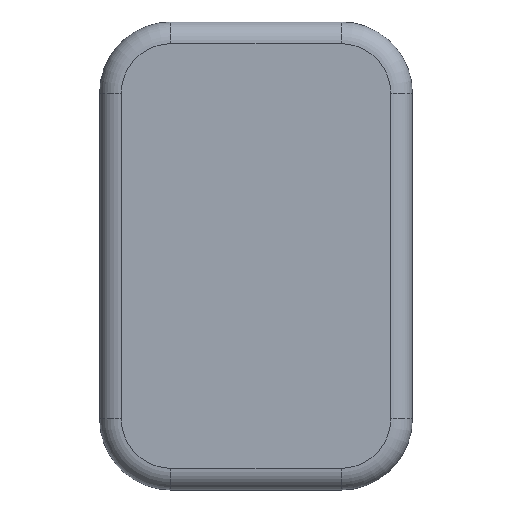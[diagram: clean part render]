
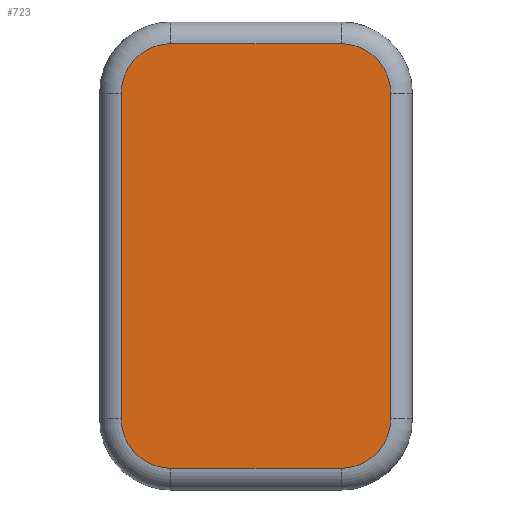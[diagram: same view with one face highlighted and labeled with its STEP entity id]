
A CAD part, front view. The second image highlights one B-rep face of the part: STEP entity #723.
In plain terms, the highlighted planar face has unit normal (0, -1, 0).
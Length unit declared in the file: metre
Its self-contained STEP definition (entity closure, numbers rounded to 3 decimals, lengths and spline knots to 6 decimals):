
#60=CIRCLE('',#796,0.003576);
#61=CIRCLE('',#797,0.003576);
#62=CIRCLE('',#798,0.003576);
#63=CIRCLE('',#799,0.003576);
#152=ORIENTED_EDGE('',*,*,#364,.T.);
#153=ORIENTED_EDGE('',*,*,#365,.T.);
#154=ORIENTED_EDGE('',*,*,#366,.T.);
#155=ORIENTED_EDGE('',*,*,#367,.T.);
#156=ORIENTED_EDGE('',*,*,#368,.T.);
#157=ORIENTED_EDGE('',*,*,#369,.T.);
#158=ORIENTED_EDGE('',*,*,#370,.T.);
#159=ORIENTED_EDGE('',*,*,#371,.T.);
#364=EDGE_CURVE('',#464,#465,#524,.F.);
#365=EDGE_CURVE('',#465,#466,#60,.T.);
#366=EDGE_CURVE('',#466,#467,#525,.T.);
#367=EDGE_CURVE('',#467,#468,#61,.T.);
#368=EDGE_CURVE('',#468,#469,#526,.T.);
#369=EDGE_CURVE('',#469,#470,#62,.T.);
#370=EDGE_CURVE('',#470,#471,#527,.F.);
#371=EDGE_CURVE('',#471,#464,#63,.T.);
#464=VERTEX_POINT('',#1209);
#465=VERTEX_POINT('',#1210);
#466=VERTEX_POINT('',#1212);
#467=VERTEX_POINT('',#1214);
#468=VERTEX_POINT('',#1216);
#469=VERTEX_POINT('',#1218);
#470=VERTEX_POINT('',#1220);
#471=VERTEX_POINT('',#1222);
#524=LINE('',#1208,#584);
#525=LINE('',#1213,#585);
#526=LINE('',#1217,#586);
#527=LINE('',#1221,#587);
#584=VECTOR('',#946,1.);
#585=VECTOR('',#949,1.);
#586=VECTOR('',#952,1.);
#587=VECTOR('',#955,1.);
#624=EDGE_LOOP('',(#152,#153,#154,#155,#156,#157,#158,#159));
#664=FACE_BOUND('',#624,.T.);
#700=PLANE('',#795);
#723=ADVANCED_FACE('',(#664),#700,.T.);
#795=AXIS2_PLACEMENT_3D('',#1207,#944,#945);
#796=AXIS2_PLACEMENT_3D('',#1211,#947,#948);
#797=AXIS2_PLACEMENT_3D('',#1215,#950,#951);
#798=AXIS2_PLACEMENT_3D('',#1219,#953,#954);
#799=AXIS2_PLACEMENT_3D('',#1223,#956,#957);
#944=DIRECTION('',(0.,-1.,0.));
#945=DIRECTION('',(1.,0.,0.));
#946=DIRECTION('',(1.,0.,0.));
#947=DIRECTION('',(0.,-1.,0.));
#948=DIRECTION('',(-1.,0.,0.));
#949=DIRECTION('',(0.,0.,-1.));
#950=DIRECTION('',(0.,-1.,0.));
#951=DIRECTION('',(-1.,0.,0.));
#952=DIRECTION('',(1.,0.,0.));
#953=DIRECTION('',(0.,-1.,0.));
#954=DIRECTION('',(-1.,0.,0.));
#955=DIRECTION('',(0.,0.,-1.));
#956=DIRECTION('',(0.,-1.,0.));
#957=DIRECTION('',(-1.,0.,0.));
#1207=CARTESIAN_POINT('',(0.126102,-0.001,0.07843));
#1208=CARTESIAN_POINT('',(0.126102,-0.001,0.093769));
#1209=CARTESIAN_POINT('',(0.134358,-0.001,0.093769));
#1210=CARTESIAN_POINT('',(0.122047,-0.001,0.093769));
#1211=CARTESIAN_POINT('',(0.122047,-0.001,0.090193));
#1212=CARTESIAN_POINT('',(0.11847,-0.001,0.090193));
#1213=CARTESIAN_POINT('',(0.11847,-0.001,0.066666));
#1214=CARTESIAN_POINT('',(0.11847,-0.001,0.066666));
#1215=CARTESIAN_POINT('',(0.122047,-0.001,0.066666));
#1216=CARTESIAN_POINT('',(0.122047,-0.001,0.06309));
#1217=CARTESIAN_POINT('',(0.134358,-0.001,0.06309));
#1218=CARTESIAN_POINT('',(0.134358,-0.001,0.06309));
#1219=CARTESIAN_POINT('',(0.134358,-0.001,0.066666));
#1220=CARTESIAN_POINT('',(0.137934,-0.001,0.066666));
#1221=CARTESIAN_POINT('',(0.137934,-0.001,0.07843));
#1222=CARTESIAN_POINT('',(0.137934,-0.001,0.090193));
#1223=CARTESIAN_POINT('',(0.134358,-0.001,0.090193));
